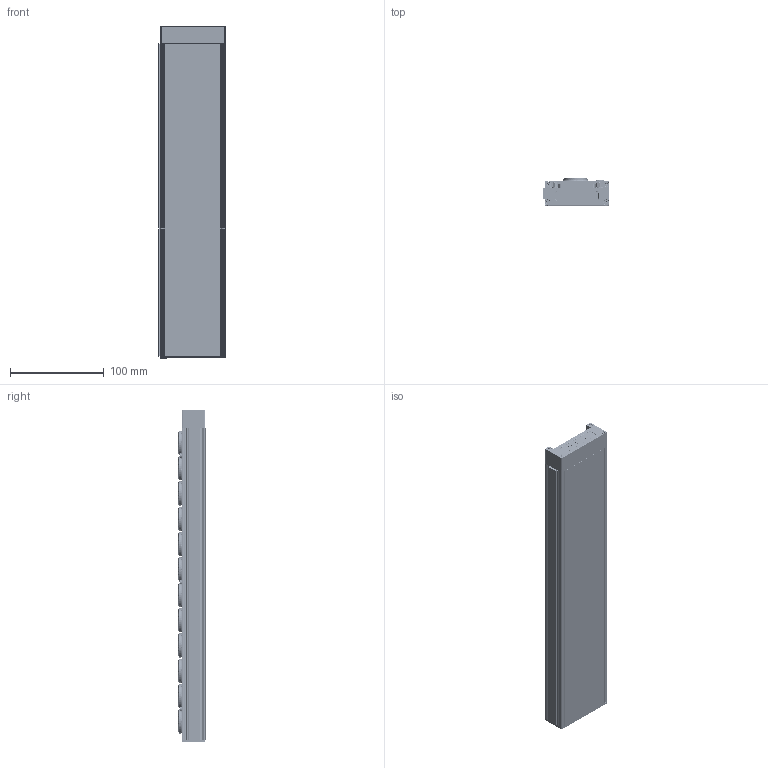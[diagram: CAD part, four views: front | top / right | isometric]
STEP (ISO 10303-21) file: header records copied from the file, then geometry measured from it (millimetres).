
FILE_DESCRIPTION (( 'STEP AP214' ), '1' );
FILE_NAME ('WMCS-411-0012 (3D).STEP', '2019-12-06T15:25:29', ( '' ), ( '' ), 'SwSTEP 2.0', 'SolidWorks 2016', '' );
FILE_SCHEMA (( 'AUTOMOTIVE_DESIGN' ));
Length unit declared in the file: millimetre
Products named in the file (1): WMCS-411-0012 (3D)
Bounding box: 70.93 x 28.8 x 354 mm (x, y, z)
Volume: 638674.1 mm3; surface area: 169386.4 mm2
Topology: 83 solids, 83 shells, 4342 faces, 10654 edges, 6603 vertices
Faces by surface type: plane 1805, cylinder 1254, bspline 819, cone 419, torus 33, sphere 12
Entity records: 162215 total; most frequent: CARTESIAN_POINT 57842, ORIENTED_EDGE 21148, DIRECTION 20008, EDGE_CURVE 10574, AXIS2_PLACEMENT_3D 7458, VERTEX_POINT 6603, LINE 5092, VECTOR 5092
